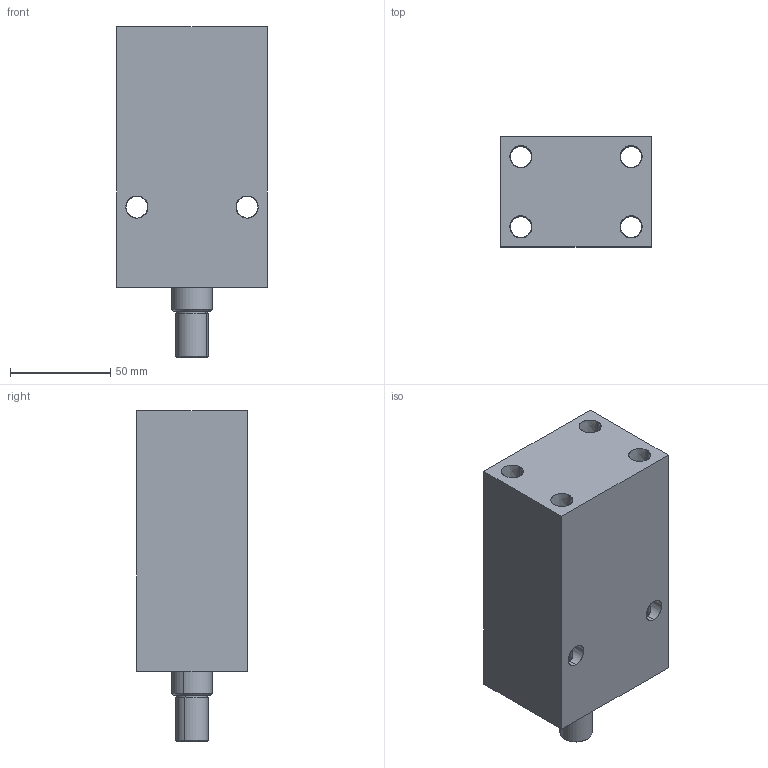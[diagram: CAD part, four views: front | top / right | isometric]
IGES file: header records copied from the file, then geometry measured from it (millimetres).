
Start section: SolidWorks IGES file using analytic representation for surfaces
Global section: file name: D:\karuppas\Clasp\3D model\Block cylinder B01C-Male thread - Copy\B01C-275M\Block cylinder_B01C-275M.IGS; native system: SolidWorks 2017; preprocessor: SolidWorks 2017; author: pc; date: 220709.234036; units: millimetre
Bounding box: 75 x 55 x 165 mm (x, y, z)
Surface area: 73437.2 mm2 (no closed solid volume)
Topology: 0 solids, 0 shells, 345 faces, 5180 edges, 5176 vertices
Faces by surface type: bspline 291, revolution 54
